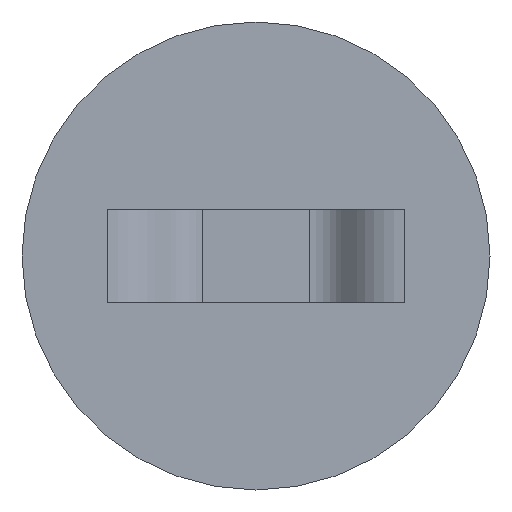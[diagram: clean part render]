
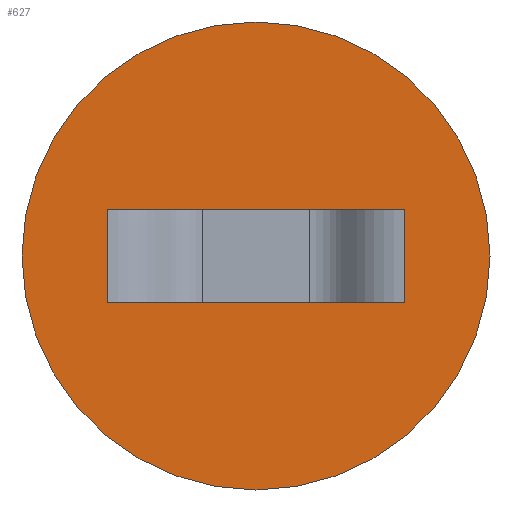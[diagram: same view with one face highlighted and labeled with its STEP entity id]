
A CAD part, front view. The second image highlights one B-rep face of the part: STEP entity #627.
In plain terms, the highlighted planar face has unit normal (0, -1, 0).
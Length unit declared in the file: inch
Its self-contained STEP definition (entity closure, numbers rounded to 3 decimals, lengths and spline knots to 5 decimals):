
#40 = CARTESIAN_POINT ( 'NONE',  ( 0.22865, -0.059, 0. ) ) ;
#44 = PLANE ( 'NONE',  #204 ) ;
#57 = CARTESIAN_POINT ( 'NONE',  ( 1.25, -0.059, 0.125 ) ) ;
#61 = LINE ( 'NONE', #138, #598 ) ;
#81 = ORIENTED_EDGE ( 'NONE', *, *, #130, .F. ) ;
#130 = EDGE_CURVE ( 'NONE', #237, #642, #716, .T. ) ;
#138 = CARTESIAN_POINT ( 'NONE',  ( 0.22865, -0.059, 0. ) ) ;
#149 = VECTOR ( 'NONE', #785, 39.37008 ) ;
#169 = ORIENTED_EDGE ( 'NONE', *, *, #334, .F. ) ;
#178 = VECTOR ( 'NONE', #608, 39.37008 ) ;
#180 = CARTESIAN_POINT ( 'NONE',  ( 0., -0.059, 0.125 ) ) ;
#194 = VERTEX_POINT ( 'NONE', #180 ) ;
#197 = DIRECTION ( 'NONE',  ( 1., 0., 0. ) ) ;
#204 = AXIS2_PLACEMENT_3D ( 'NONE', #727, #722, #655 ) ;
#215 = EDGE_CURVE ( 'NONE', #261, #436, #346, .T. ) ;
#230 = EDGE_CURVE ( 'NONE', #372, #194, #728, .T. ) ;
#236 = CARTESIAN_POINT ( 'NONE',  ( 1.02135, -0.059, 0.25 ) ) ;
#237 = VERTEX_POINT ( 'NONE', #782 ) ;
#240 = AXIS2_PLACEMENT_3D ( 'NONE', #502, #374, #688 ) ;
#261 = VERTEX_POINT ( 'NONE', #236 ) ;
#277 = EDGE_LOOP ( 'NONE', ( #805, #690, #169, #81 ) ) ;
#285 = EDGE_CURVE ( 'NONE', #194, #372, #588, .T. ) ;
#289 = VECTOR ( 'NONE', #363, 39.37008 ) ;
#308 = ORIENTED_EDGE ( 'NONE', *, *, #230, .T. ) ;
#334 = EDGE_CURVE ( 'NONE', #642, #436, #61, .T. ) ;
#346 = LINE ( 'NONE', #595, #149 ) ;
#363 = DIRECTION ( 'NONE',  ( 0., 0., -1. ) ) ;
#372 = VERTEX_POINT ( 'NONE', #57 ) ;
#374 = DIRECTION ( 'NONE',  ( 0., -1., 0. ) ) ;
#417 = LINE ( 'NONE', #667, #178 ) ;
#436 = VERTEX_POINT ( 'NONE', #510 ) ;
#502 = CARTESIAN_POINT ( 'NONE',  ( 0.625, -0.059, 0.125 ) ) ;
#510 = CARTESIAN_POINT ( 'NONE',  ( 1.02135, -0.059, 0. ) ) ;
#535 = DIRECTION ( 'NONE',  ( 0., -1., 0. ) ) ;
#588 = CIRCLE ( 'NONE', #240, 0.625 ) ;
#595 = CARTESIAN_POINT ( 'NONE',  ( 1.02135, -0.059, 0.25 ) ) ;
#598 = VECTOR ( 'NONE', #197, 39.37008 ) ;
#608 = DIRECTION ( 'NONE',  ( -1., 0., 0. ) ) ;
#627 = ADVANCED_FACE ( 'NONE', ( #787, #792 ), #44, .F. ) ;
#642 = VERTEX_POINT ( 'NONE', #40 ) ;
#655 = DIRECTION ( 'NONE',  ( -1., 0., 0. ) ) ;
#667 = CARTESIAN_POINT ( 'NONE',  ( 0.22865, -0.059, 0.25 ) ) ;
#673 = EDGE_LOOP ( 'NONE', ( #308, #730 ) ) ;
#675 = AXIS2_PLACEMENT_3D ( 'NONE', #788, #535, #720 ) ;
#688 = DIRECTION ( 'NONE',  ( 1., 0., 0. ) ) ;
#690 = ORIENTED_EDGE ( 'NONE', *, *, #215, .T. ) ;
#691 = EDGE_CURVE ( 'NONE', #261, #237, #417, .T. ) ;
#716 = LINE ( 'NONE', #729, #289 ) ;
#720 = DIRECTION ( 'NONE',  ( 1., 0., 0. ) ) ;
#722 = DIRECTION ( 'NONE',  ( 0., 1., 0. ) ) ;
#727 = CARTESIAN_POINT ( 'NONE',  ( 1.02135, -0.059, 0.25 ) ) ;
#728 = CIRCLE ( 'NONE', #675, 0.625 ) ;
#729 = CARTESIAN_POINT ( 'NONE',  ( 0.22865, -0.059, 0.25 ) ) ;
#730 = ORIENTED_EDGE ( 'NONE', *, *, #285, .T. ) ;
#782 = CARTESIAN_POINT ( 'NONE',  ( 0.22865, -0.059, 0.25 ) ) ;
#785 = DIRECTION ( 'NONE',  ( 0., 0., -1. ) ) ;
#787 = FACE_OUTER_BOUND ( 'NONE', #673, .T. ) ;
#788 = CARTESIAN_POINT ( 'NONE',  ( 0.625, -0.059, 0.125 ) ) ;
#792 = FACE_BOUND ( 'NONE', #277, .T. ) ;
#805 = ORIENTED_EDGE ( 'NONE', *, *, #691, .F. ) ;
